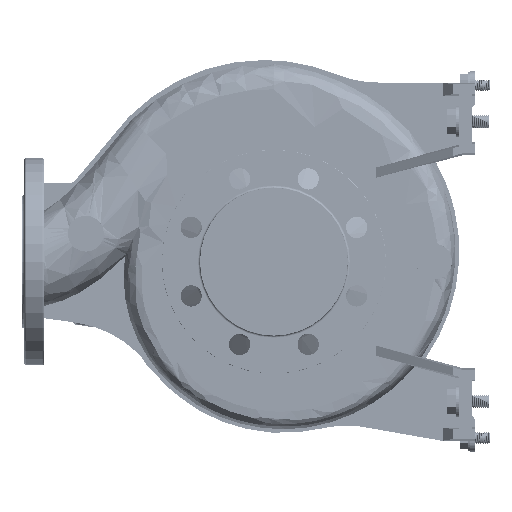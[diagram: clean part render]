
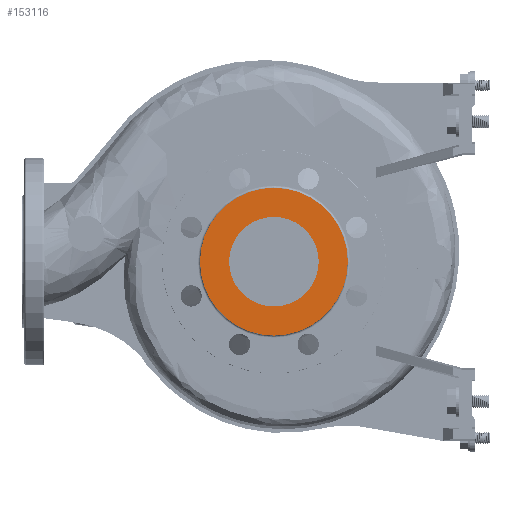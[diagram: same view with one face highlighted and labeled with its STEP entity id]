
A CAD part, left-side view. The second image highlights one B-rep face of the part: STEP entity #153116.
In plain terms, the highlighted planar face has unit normal (-1, 0, 0).
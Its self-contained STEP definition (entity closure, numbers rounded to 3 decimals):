
#2099 = ORIENTED_EDGE ( 'NONE', *, *, #114236, .F. ) ;
#14178 = CARTESIAN_POINT ( 'NONE',  ( -100., -40., 0. ) ) ;
#15523 = CARTESIAN_POINT ( 'NONE',  ( -100., 0., 0. ) ) ;
#21583 = AXIS2_PLACEMENT_3D ( 'NONE', #196437, #46478, #215013 ) ;
#26872 = EDGE_LOOP ( 'NONE', ( #2099, #123939 ) ) ;
#44653 = AXIS2_PLACEMENT_3D ( 'NONE', #63041, #64121, #213000 ) ;
#45906 = FACE_BOUND ( 'NONE', #216233, .T. ) ;
#46478 = DIRECTION ( 'NONE',  ( -1., 0., 0. ) ) ;
#50164 = ORIENTED_EDGE ( 'NONE', *, *, #168459, .F. ) ;
#52570 = AXIS2_PLACEMENT_3D ( 'NONE', #165207, #94134, #196943 ) ;
#62608 = DIRECTION ( 'NONE',  ( 0., -1., 0. ) ) ;
#63041 = CARTESIAN_POINT ( 'NONE',  ( -100., 0., 0. ) ) ;
#64121 = DIRECTION ( 'NONE',  ( 1., 0., 0. ) ) ;
#75002 = CARTESIAN_POINT ( 'NONE',  ( -100., -66., 0. ) ) ;
#80547 = VERTEX_POINT ( 'NONE', #168817 ) ;
#94134 = DIRECTION ( 'NONE',  ( -1., 0., 0. ) ) ;
#98444 = AXIS2_PLACEMENT_3D ( 'NONE', #135472, #202206, #119033 ) ;
#109116 = CARTESIAN_POINT ( 'NONE',  ( -100., 40., 0. ) ) ;
#109292 = VERTEX_POINT ( 'NONE', #14178 ) ;
#113773 = FACE_OUTER_BOUND ( 'NONE', #26872, .T. ) ;
#114236 = EDGE_CURVE ( 'NONE', #80547, #204293, #177498, .T. ) ;
#118747 = AXIS2_PLACEMENT_3D ( 'NONE', #15523, #212561, #62608 ) ;
#119033 = DIRECTION ( 'NONE',  ( 0., 1., 0. ) ) ;
#119545 = CIRCLE ( 'NONE', #21583, 40. ) ;
#123939 = ORIENTED_EDGE ( 'NONE', *, *, #174708, .F. ) ;
#135472 = CARTESIAN_POINT ( 'NONE',  ( -100., 0., 0. ) ) ;
#152599 = ORIENTED_EDGE ( 'NONE', *, *, #209947, .F. ) ;
#153116 = ADVANCED_FACE ( 'NONE', ( #45906, #113773 ), #161978, .T. ) ;
#161978 = PLANE ( 'NONE',  #52570 ) ;
#165207 = CARTESIAN_POINT ( 'NONE',  ( -100., 0., 0. ) ) ;
#168459 = EDGE_CURVE ( 'NONE', #109292, #169129, #185185, .T. ) ;
#168817 = CARTESIAN_POINT ( 'NONE',  ( -100., 66., 0. ) ) ;
#169129 = VERTEX_POINT ( 'NONE', #109116 ) ;
#171876 = CIRCLE ( 'NONE', #98444, 66. ) ;
#174708 = EDGE_CURVE ( 'NONE', #204293, #80547, #171876, .T. ) ;
#177498 = CIRCLE ( 'NONE', #44653, 66. ) ;
#185185 = CIRCLE ( 'NONE', #118747, 40. ) ;
#196437 = CARTESIAN_POINT ( 'NONE',  ( -100., 0., 0. ) ) ;
#196943 = DIRECTION ( 'NONE',  ( 0., -1., 0. ) ) ;
#202206 = DIRECTION ( 'NONE',  ( 1., 0., 0. ) ) ;
#204293 = VERTEX_POINT ( 'NONE', #75002 ) ;
#209947 = EDGE_CURVE ( 'NONE', #169129, #109292, #119545, .T. ) ;
#212561 = DIRECTION ( 'NONE',  ( -1., 0., 0. ) ) ;
#213000 = DIRECTION ( 'NONE',  ( 0., 1., 0. ) ) ;
#215013 = DIRECTION ( 'NONE',  ( 0., -1., 0. ) ) ;
#216233 = EDGE_LOOP ( 'NONE', ( #50164, #152599 ) ) ;
